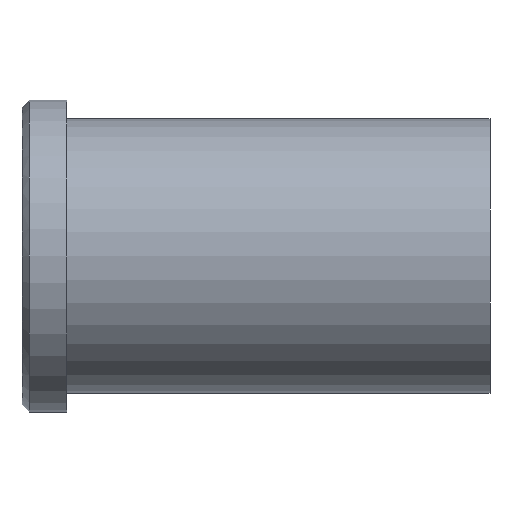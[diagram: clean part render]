
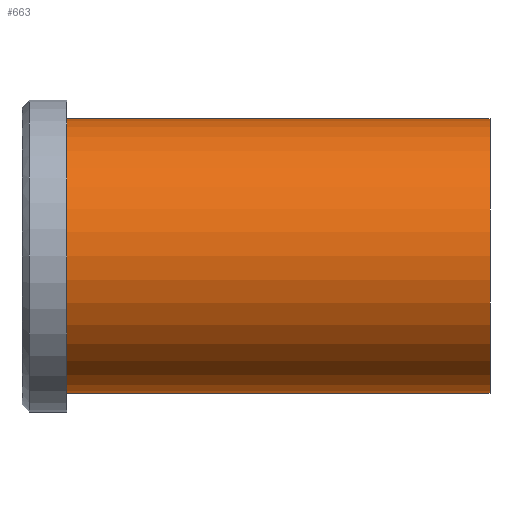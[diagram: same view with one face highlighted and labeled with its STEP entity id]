
A CAD part, front view. The second image highlights one B-rep face of the part: STEP entity #663.
In plain terms, the highlighted cylindrical face has radius 37 mm (diameter 74 mm), a partial arc.
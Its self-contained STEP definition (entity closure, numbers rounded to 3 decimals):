
#501=CARTESIAN_POINT('Vertex',(0.,0.,-37.)) ;
#506=CARTESIAN_POINT('Axis2P3D Location',(0.,0.,0.)) ;
#510=CARTESIAN_POINT('Vertex',(0.,-37.,0.)) ;
#513=CARTESIAN_POINT('Axis2P3D Location',(0.,0.,0.)) ;
#517=CARTESIAN_POINT('Vertex',(0.,0.,37.)) ;
#603=CARTESIAN_POINT('Line Origine',(114.,0.,37.)) ;
#607=CARTESIAN_POINT('Vertex',(114.,0.,37.)) ;
#621=CARTESIAN_POINT('Vertex',(114.,0.,-37.)) ;
#624=CARTESIAN_POINT('Line Origine',(114.,0.,-37.)) ;
#638=CARTESIAN_POINT('Axis2P3D Location',(114.,0.,0.)) ;
#643=CARTESIAN_POINT('Axis2P3D Location',(114.,0.,0.)) ;
#647=CARTESIAN_POINT('Vertex',(114.,-37.,0.)) ;
#650=CARTESIAN_POINT('Axis2P3D Location',(114.,0.,0.)) ;
#507=DIRECTION('Axis2P3D Direction',(1.,0.,-0.)) ;
#514=DIRECTION('Axis2P3D Direction',(1.,0.,-0.)) ;
#604=DIRECTION('Vector Direction',(-1.,0.,0.)) ;
#625=DIRECTION('Vector Direction',(-1.,0.,0.)) ;
#639=DIRECTION('Axis2P3D Direction',(-1.,-0.,-0.)) ;
#640=DIRECTION('Axis2P3D XDirection',(0.,0.,-1.)) ;
#644=DIRECTION('Axis2P3D Direction',(-1.,-0.,-0.)) ;
#651=DIRECTION('Axis2P3D Direction',(-1.,-0.,-0.)) ;
#508=AXIS2_PLACEMENT_3D('Circle Axis2P3D',#506,#507,$) ;
#515=AXIS2_PLACEMENT_3D('Circle Axis2P3D',#513,#514,$) ;
#641=AXIS2_PLACEMENT_3D('Cylinder Axis2P3D',#638,#639,#640) ;
#645=AXIS2_PLACEMENT_3D('Circle Axis2P3D',#643,#644,$) ;
#652=AXIS2_PLACEMENT_3D('Circle Axis2P3D',#650,#651,$) ;
#656=ORIENTED_EDGE('',*,*,#628,.T.) ;
#657=ORIENTED_EDGE('',*,*,#649,.F.) ;
#658=ORIENTED_EDGE('',*,*,#654,.F.) ;
#659=ORIENTED_EDGE('',*,*,#609,.T.) ;
#660=ORIENTED_EDGE('',*,*,#519,.T.) ;
#661=ORIENTED_EDGE('',*,*,#512,.T.) ;
#605=VECTOR('Line Direction',#604,1.) ;
#626=VECTOR('Line Direction',#625,1.) ;
#663=ADVANCED_FACE('353-60x126',(#662),#642,.T.) ;
#509=CIRCLE('generated circle',#508,37.) ;
#516=CIRCLE('generated circle',#515,37.) ;
#646=CIRCLE('generated circle',#645,37.) ;
#653=CIRCLE('generated circle',#652,37.) ;
#642=CYLINDRICAL_SURFACE('generated cylinder',#641,37.) ;
#512=EDGE_CURVE('',#511,#502,#509,.T.) ;
#519=EDGE_CURVE('',#518,#511,#516,.T.) ;
#609=EDGE_CURVE('',#608,#518,#606,.T.) ;
#628=EDGE_CURVE('',#502,#622,#627,.F.) ;
#649=EDGE_CURVE('',#648,#622,#646,.F.) ;
#654=EDGE_CURVE('',#608,#648,#653,.F.) ;
#655=EDGE_LOOP('',(#656,#657,#658,#659,#660,#661)) ;
#662=FACE_OUTER_BOUND('',#655,.T.) ;
#606=LINE('Line',#603,#605) ;
#627=LINE('Line',#624,#626) ;
#502=VERTEX_POINT('',#501) ;
#511=VERTEX_POINT('',#510) ;
#518=VERTEX_POINT('',#517) ;
#608=VERTEX_POINT('',#607) ;
#622=VERTEX_POINT('',#621) ;
#648=VERTEX_POINT('',#647) ;
